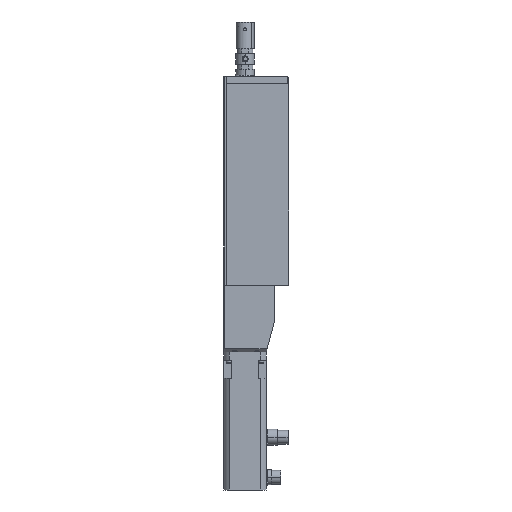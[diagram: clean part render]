
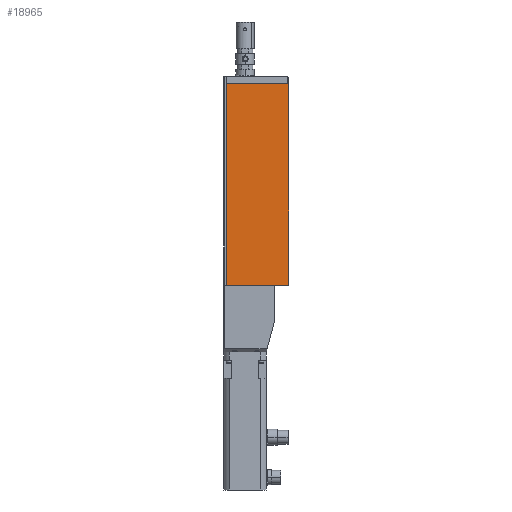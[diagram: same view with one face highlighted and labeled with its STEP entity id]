
A CAD part, left-side view. The second image highlights one B-rep face of the part: STEP entity #18965.
In plain terms, the highlighted planar face has unit normal (-1, 0, 0).
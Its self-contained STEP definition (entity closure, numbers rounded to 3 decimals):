
#195 = CARTESIAN_POINT ( 'NONE',  ( 16.221, 22.916, 284.226 ) ) ;
#3971 = VECTOR ( 'NONE', #22159, 1000. ) ;
#4560 = LINE ( 'NONE', #31373, #24659 ) ;
#6068 = EDGE_CURVE ( 'NONE', #9722, #34114, #6163, .T. ) ;
#6163 = LINE ( 'NONE', #16625, #3971 ) ;
#6244 = EDGE_CURVE ( 'NONE', #10981, #10690, #13282, .T. ) ;
#8127 = CARTESIAN_POINT ( 'NONE',  ( 16.221, 22.916, -47.774 ) ) ;
#9722 = VERTEX_POINT ( 'NONE', #20622 ) ;
#10690 = VERTEX_POINT ( 'NONE', #31713 ) ;
#10981 = VERTEX_POINT ( 'NONE', #21320 ) ;
#11237 = EDGE_CURVE ( 'NONE', #10690, #34114, #28132, .T. ) ;
#13282 = LINE ( 'NONE', #195, #15493 ) ;
#13364 = PLANE ( 'NONE',  #34591 ) ;
#13490 = DIRECTION ( 'NONE',  ( 0., 0., -1. ) ) ;
#13815 = VECTOR ( 'NONE', #25463, 1000. ) ;
#15493 = VECTOR ( 'NONE', #22667, 1000. ) ;
#16625 = CARTESIAN_POINT ( 'NONE',  ( 16.221, 22.916, -47.774 ) ) ;
#18363 = FACE_OUTER_BOUND ( 'NONE', #23933, .T. ) ;
#18965 = ADVANCED_FACE ( 'NONE', ( #18363 ), #13364, .F. ) ;
#19093 = DIRECTION ( 'NONE',  ( 1., 0., 0. ) ) ;
#20622 = CARTESIAN_POINT ( 'NONE',  ( 16.221, 124.916, -47.774 ) ) ;
#21320 = CARTESIAN_POINT ( 'NONE',  ( 16.221, 124.916, 284.226 ) ) ;
#21936 = ORIENTED_EDGE ( 'NONE', *, *, #6244, .F. ) ;
#22159 = DIRECTION ( 'NONE',  ( 0., -1., 0. ) ) ;
#22341 = ORIENTED_EDGE ( 'NONE', *, *, #6068, .T. ) ;
#22667 = DIRECTION ( 'NONE',  ( 0., -1., 0. ) ) ;
#22903 = DIRECTION ( 'NONE',  ( 0., 0., -1. ) ) ;
#23933 = EDGE_LOOP ( 'NONE', ( #22341, #24935, #21936, #28250 ) ) ;
#24659 = VECTOR ( 'NONE', #22903, 1000. ) ;
#24935 = ORIENTED_EDGE ( 'NONE', *, *, #11237, .F. ) ;
#25463 = DIRECTION ( 'NONE',  ( 0., 0., -1. ) ) ;
#28132 = LINE ( 'NONE', #33914, #13815 ) ;
#28250 = ORIENTED_EDGE ( 'NONE', *, *, #31443, .T. ) ;
#31373 = CARTESIAN_POINT ( 'NONE',  ( 16.221, 124.916, 284.226 ) ) ;
#31443 = EDGE_CURVE ( 'NONE', #10981, #9722, #4560, .T. ) ;
#31713 = CARTESIAN_POINT ( 'NONE',  ( 16.221, 22.916, 284.226 ) ) ;
#33914 = CARTESIAN_POINT ( 'NONE',  ( 16.221, 22.916, 284.226 ) ) ;
#34114 = VERTEX_POINT ( 'NONE', #8127 ) ;
#34591 = AXIS2_PLACEMENT_3D ( 'NONE', #36221, #19093, #13490 ) ;
#36221 = CARTESIAN_POINT ( 'NONE',  ( 16.221, 22.916, 284.226 ) ) ;
